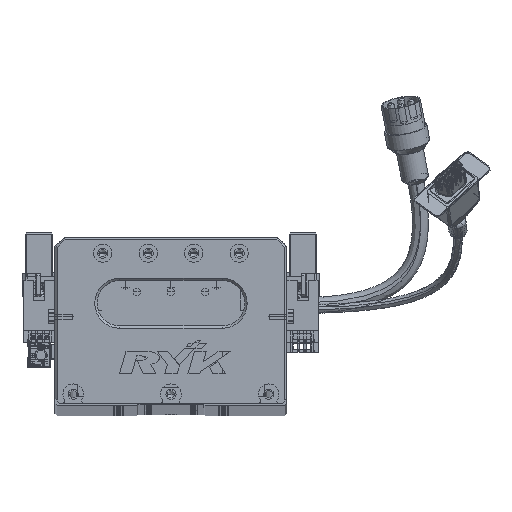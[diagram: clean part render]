
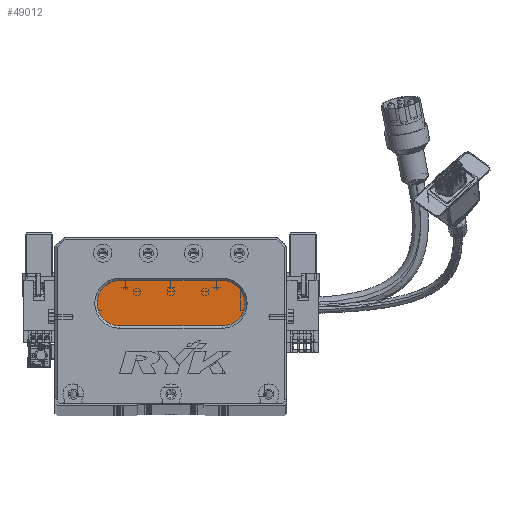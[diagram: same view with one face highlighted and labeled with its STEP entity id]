
A CAD part, top view. The second image highlights one B-rep face of the part: STEP entity #49012.
In plain terms, the highlighted planar face has unit normal (0, 0, 1) as drawn and (0, 0, -1) by its records, which use the part's own axes.
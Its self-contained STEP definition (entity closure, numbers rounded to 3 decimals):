
#7 = AXIS2_PLACEMENT_3D ( 'NONE', #56448, #41895, #44683 ) ;
#2140 = CIRCLE ( 'NONE', #7, 10. ) ;
#4120 = VECTOR ( 'NONE', #63150, 1000. ) ;
#6307 = ORIENTED_EDGE ( 'NONE', *, *, #47850, .T. ) ;
#7913 = DIRECTION ( 'NONE',  ( 0., 0., -1. ) ) ;
#13204 = ORIENTED_EDGE ( 'NONE', *, *, #27430, .T. ) ;
#13519 = AXIS2_PLACEMENT_3D ( 'NONE', #26647, #7913, #40023 ) ;
#14821 = EDGE_CURVE ( 'NONE', #60426, #19911, #40189, .T. ) ;
#16945 = DIRECTION ( 'NONE',  ( 0., 0., -1. ) ) ;
#19911 = VERTEX_POINT ( 'NONE', #41696 ) ;
#20151 = AXIS2_PLACEMENT_3D ( 'NONE', #64464, #24210, #30608 ) ;
#20605 = CARTESIAN_POINT ( 'NONE',  ( 28.5, 54., 13. ) ) ;
#20658 = EDGE_CURVE ( 'NONE', #39202, #60426, #2140, .T. ) ;
#21210 = ORIENTED_EDGE ( 'NONE', *, *, #20658, .T. ) ;
#21845 = FACE_OUTER_BOUND ( 'NONE', #44997, .T. ) ;
#24210 = DIRECTION ( 'NONE',  ( 0., 0., -1. ) ) ;
#24546 = ORIENTED_EDGE ( 'NONE', *, *, #14821, .T. ) ;
#26647 = CARTESIAN_POINT ( 'NONE',  ( 73.5, 44., 13. ) ) ;
#27430 = EDGE_CURVE ( 'NONE', #19911, #37063, #84322, .T. ) ;
#27826 = CARTESIAN_POINT ( 'NONE',  ( 18.5, 44., 13. ) ) ;
#30608 = DIRECTION ( 'NONE',  ( -1., 0., 0. ) ) ;
#36984 = CARTESIAN_POINT ( 'NONE',  ( 73.5, 34., 13. ) ) ;
#37063 = VERTEX_POINT ( 'NONE', #36984 ) ;
#39202 = VERTEX_POINT ( 'NONE', #27826 ) ;
#40023 = DIRECTION ( 'NONE',  ( -1., 0., 0. ) ) ;
#40189 = LINE ( 'NONE', #40391, #57953 ) ;
#40391 = CARTESIAN_POINT ( 'NONE',  ( 73.5, 54., 13. ) ) ;
#40721 = AXIS2_PLACEMENT_3D ( 'NONE', #44091, #16945, #71259 ) ;
#41696 = CARTESIAN_POINT ( 'NONE',  ( 73.5, 54., 13. ) ) ;
#41895 = DIRECTION ( 'NONE',  ( 0., 0., -1. ) ) ;
#44091 = CARTESIAN_POINT ( 'NONE',  ( 73.5, 44., 13. ) ) ;
#44683 = DIRECTION ( 'NONE',  ( -1., 0., 0. ) ) ;
#44997 = EDGE_LOOP ( 'NONE', ( #13204, #61244, #6307, #21210, #24546 ) ) ;
#45028 = CARTESIAN_POINT ( 'NONE',  ( 28.5, 34., 13. ) ) ;
#46823 = DIRECTION ( 'NONE',  ( 1., 0., 0. ) ) ;
#47850 = EDGE_CURVE ( 'NONE', #76724, #39202, #60700, .T. ) ;
#49012 = ADVANCED_FACE ( 'NONE', ( #21845 ), #61038, .T. ) ;
#56448 = CARTESIAN_POINT ( 'NONE',  ( 28.5, 44., 13. ) ) ;
#57953 = VECTOR ( 'NONE', #46823, 1000. ) ;
#60426 = VERTEX_POINT ( 'NONE', #20605 ) ;
#60700 = CIRCLE ( 'NONE', #20151, 10. ) ;
#61038 = PLANE ( 'NONE',  #13519 ) ;
#61244 = ORIENTED_EDGE ( 'NONE', *, *, #67329, .T. ) ;
#63150 = DIRECTION ( 'NONE',  ( -1., 0., 0. ) ) ;
#64464 = CARTESIAN_POINT ( 'NONE',  ( 28.5, 44., 13. ) ) ;
#64709 = LINE ( 'NONE', #83024, #4120 ) ;
#67329 = EDGE_CURVE ( 'NONE', #37063, #76724, #64709, .T. ) ;
#71259 = DIRECTION ( 'NONE',  ( -1., 0., 0. ) ) ;
#76724 = VERTEX_POINT ( 'NONE', #45028 ) ;
#83024 = CARTESIAN_POINT ( 'NONE',  ( 73.5, 34., 13. ) ) ;
#84322 = CIRCLE ( 'NONE', #40721, 10. ) ;
